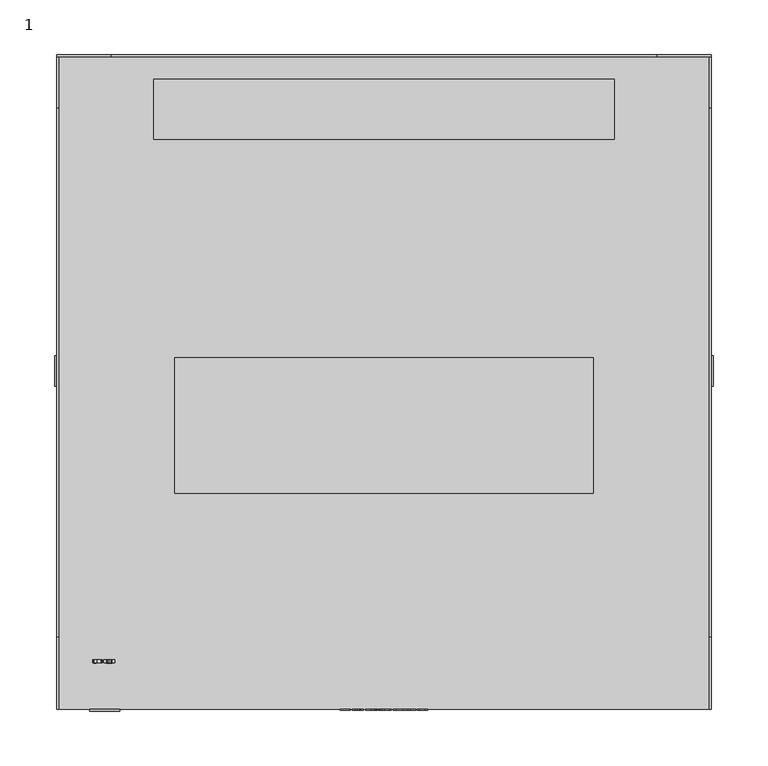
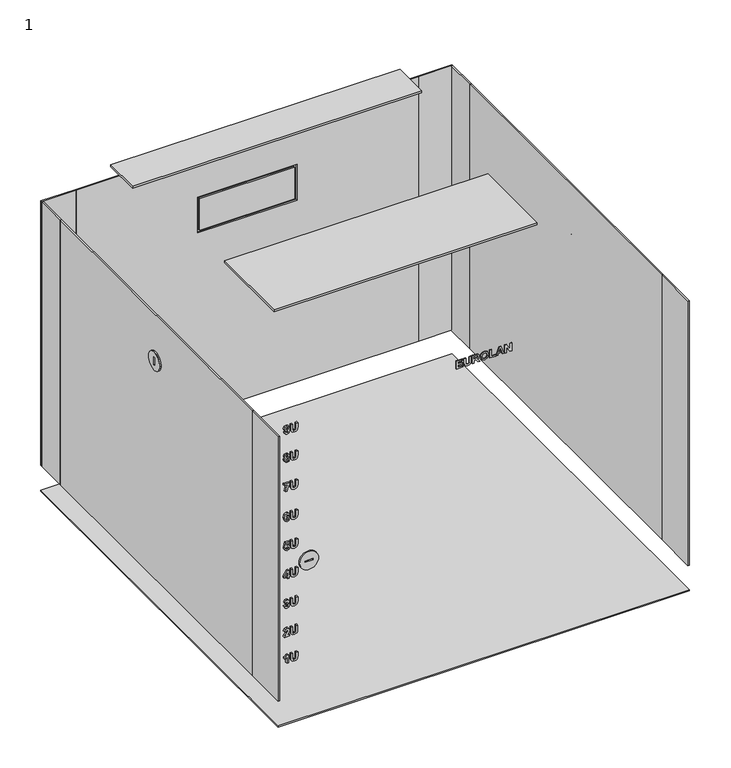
"""IFC4 building model written with IfcOpenShell, lengths in millimetres: proxy geometry, 1 : 9U 600мм металлическая дверь."""

from ifc_helpers import new_model, si_unit, point, frame, frame_2d, origin, origin_with_axes, place, context, project, spatial, polyline, circle_curve, trimmed, segment, composite_curve, outline, extrude, source, transform, mapped, element, save


def proxy_1_869947a7(model_context):
    return source(origin(), model_context, "Body", "SweptSolid", [
        extrude(outline(polyline([(462.0, -40.3245382), (462.0, -30.9964522), (464.1376864, -30.9964522), (464.1376864, -37.9925167), (467.2470483, -37.9925167), (467.2470483, -31.5794576), (469.3847347, -31.5794576), (469.3847347, -37.9925167), (472.1054264, -37.9925167), (472.1054264, -31.1907874), (474.2431128, -31.1907874), (474.2431128, -40.3245382), (462.0, -40.3245382)])), frame((0.0, -301.0, 0.0), z_axis=(0.0, 1.0, 0.0), x_axis=(0.0, 0.0, 1.0)), (0.0, 0.0, 1.0), 1.0),
        extrude(outline(polyline([(474.2431128, -29.053101), (467.7207402, -29.053101), (464.6174512, -28.8071456), (463.2601418, -28.1026808), (462.2095176, -26.6482039), (461.8056649, -23.9487675), (462.1761162, -21.5575346), (463.173602, -20.0954664), (464.7085458, -19.3454543), (467.8209443, -19.1420097), (474.2431128, -19.1420097), (474.2431128, -21.4740312), (467.4960402, -21.4740312), (465.4236383, -21.5924541), (464.3714958, -22.2923642), (463.9433512, -24.0216432), (464.3973059, -25.7979877), (465.5982363, -26.6208755), (467.6387551, -26.7210795), (474.2431128, -26.7210795), (474.2431128, -29.053101)])), frame((0.0, -301.0, 0.0), z_axis=(0.0, 1.0, 0.0), x_axis=(0.0, 0.0, 1.0)), (0.0, 0.0, 1.0), 1.0),
        extrude(outline(polyline([(462.0, -16.8099882), (462.0, -14.4779667), (467.0527132, -13.9435451), (466.9251808, -12.6120459), (466.4560437, -11.8164865), (464.7966039, -10.4242575), (462.0, -8.6509495), (462.0, -5.9272213), (464.3745323, -7.424209), (466.3512849, -8.7238252), (467.3715443, -9.9475291), (468.5071902, -7.6625732), (470.7936644, -6.8988969), (472.7339791, -7.4272455), (473.9121358, -8.8361752), (474.2431128, -11.6601074), (474.2431128, -16.8099882), (462.0, -16.8099882)]), holes=[polyline([(469.1903996, -14.4779667), (472.1054264, -14.4779667), (472.1054264, -12.4495939), (472.0659521, -10.5548264), (471.6150339, -9.5770778), (470.6782779, -9.2309184), (469.817434, -9.4935744), (469.3315962, -10.2223312), (469.1903996, -12.5558709), (469.1903996, -14.4779667)])]), frame((0.0, -301.0, 0.0), z_axis=(0.0, 1.0, 0.0), x_axis=(0.0, 0.0, 1.0)), (0.0, 0.0, 1.0), 1.0),
        extrude(outline(polyline([(468.0456442, -4.9555457), (463.4681411, -3.3735363), (461.8056649, 0.8896905), (463.4757323, 5.1225524), (468.106374, 6.7045618), (472.7628257, 5.1104065), (474.4374479, 0.8593256), (473.9546466, -1.7338337), (472.8539203, -3.2869964), (471.1792981, -4.4059416), (468.0456442, -4.9555457)]), holes=[polyline([(468.1306659, -2.6235242), (471.2612832, -1.6579215), (472.2997616, 0.886654), (471.2734292, 3.4190836), (468.1640672, 4.3725403), (464.9985302, 3.3932735), (463.9433512, 0.886654), (465.0061214, -1.6321114), (468.1306659, -2.6235242)])]), frame((0.0, -301.0, 0.0), z_axis=(0.0, 1.0, 0.0), x_axis=(0.0, 0.0, 1.0)), (0.0, 0.0, 1.0), 1.0),
        extrude(outline(polyline([(462.0, 8.647913), (462.0, 17.1986585), (464.1376864, 17.1986585), (464.1376864, 10.9799345), (474.2431128, 10.9799345), (474.2431128, 8.647913), (462.0, 8.647913)])), frame((0.0, -301.0, 0.0), z_axis=(0.0, 1.0, 0.0), x_axis=(0.0, 0.0, 1.0)), (0.0, 0.0, 1.0), 1.0),
        extrude(outline(polyline([(462.0, 29.2474361), (474.2431128, 24.7352175), (474.2431128, 22.2513717), (462.0, 17.7816638), (462.0, 20.2655096), (464.7206917, 21.2128934), (464.7206917, 25.837462), (462.0, 26.7969917), (462.0, 29.2474361)]), holes=[polyline([(466.8583781, 25.0904864), (466.8583781, 21.959869), (471.3280859, 23.51455), (466.8583781, 25.0904864)])]), frame((0.0, -301.0, 0.0), z_axis=(0.0, 1.0, 0.0), x_axis=(0.0, 0.0, 1.0)), (0.0, 0.0, 1.0), 1.0),
        extrude(outline(polyline([(462.0, 30.4134469), (462.0, 32.7454684), (470.1195644, 32.7454684), (462.0, 37.8042546), (462.0, 40.3245382), (474.2431128, 40.3245382), (474.2431128, 37.9925167), (466.002089, 37.9925167), (474.2431128, 32.8578184), (474.2431128, 30.4134469), (462.0, 30.4134469)])), frame((0.0, -301.0, 0.0), z_axis=(0.0, 1.0, 0.0), x_axis=(0.0, 0.0, 1.0)), (0.0, 0.0, 1.0), 1.0),
        extrude(outline(composite_curve([segment(trimmed(circle_curve(frame_2d((9.997621, 377.4611412)), 14.0), [point((-4.002379, 377.4611412))], [point((23.997621, 377.4611412))], False, "CARTESIAN"), True, "CONTINUOUS"), segment(trimmed(circle_curve(frame_2d((9.997621, 377.4611412)), 14.0), [point((23.997621, 377.4611412))], [point((-4.002379, 377.4611412))], False, "CARTESIAN"), True, "CONTINUOUS")], self_intersect=False), holes=[polyline([(11.0, 383.5), (9.0, 383.5), (9.0, 371.5), (11.0, 371.5), (11.0, 383.5)])]), frame((-302.0, 0.0, 0.0), z_axis=(1.0, 0.0, 0.0), x_axis=(0.0, 1.0, 0.0)), (0.0, 0.0, 1.0), 2.0),
        extrude(outline(composite_curve([segment(trimmed(circle_curve(frame_2d((9.997621, 377.4611412)), 14.0), [point((-4.002379, 377.4611412))], [point((23.997621, 377.4611412))], False, "CARTESIAN"), True, "CONTINUOUS"), segment(trimmed(circle_curve(frame_2d((9.997621, 377.4611412)), 14.0), [point((23.997621, 377.4611412))], [point((-4.002379, 377.4611412))], False, "CARTESIAN"), True, "CONTINUOUS")], self_intersect=False), holes=[polyline([(11.0, 383.5), (9.0, 383.5), (9.0, 371.5), (11.0, 371.5), (11.0, 383.5)])]), frame((300.0, 0.0, 0.0), z_axis=(1.0, 0.0, 0.0), x_axis=(0.0, 1.0, 0.0)), (0.0, 0.0, 1.0), 2.0),
        extrude(outline(composite_curve([segment(trimmed(circle_curve(frame_2d((243.0, -256.0)), 13.7647373), [point((243.0, -242.2352627))], [point((243.0, -269.7647373))], False, "CARTESIAN"), True, "CONTINUOUS"), segment(trimmed(circle_curve(frame_2d((243.0, -256.0)), 13.7647373), [point((243.0, -269.7647373))], [point((243.0, -242.2352627))], False, "CARTESIAN"), True, "CONTINUOUS")], self_intersect=False), holes=[polyline([(244.0, -250.0), (242.0, -250.0), (242.0, -262.0), (244.0, -262.0), (244.0, -250.0)])]), frame((0.0, -302.0, 0.0), z_axis=(0.0, 1.0, 0.0), x_axis=(0.0, 0.0, 1.0)), (0.0, 0.0, 1.0), 2.0),
        extrude(outline(polyline([(300.0, 300.0), (300.0, -300.0), (-300.0, -300.0), (-300.0, 300.0), (300.0, 300.0)])), origin_with_axes(), (0.0, 0.0, 1.0), 2.0),
        extrude(outline(polyline([(211.0, 277.5), (211.0, 222.5), (-211.0, 222.5), (-211.0, 277.5), (211.0, 277.5)])), frame((0.0, 0.0, 482.9795778), z_axis=(0.0, 0.0, 1.0), x_axis=(1.0, 0.0, 0.0)), (0.0, 0.0, 1.0), 3.0204222),
        extrude(outline(polyline([(192.0, 22.0), (192.0, -102.0), (-192.0, -102.0), (-192.0, 22.0), (192.0, 22.0)])), frame((0.0, 0.0, 482.9795778), z_axis=(0.0, 0.0, 1.0), x_axis=(1.0, 0.0, 0.0)), (0.0, 0.0, 1.0), 3.0204222),
        extrude(outline(polyline([(-69.5, 300.0), (69.5, 300.0), (69.5, 298.0), (-69.5, 298.0), (-69.5, 300.0)])), frame((0.0, 0.0, 323.0), z_axis=(0.0, 0.0, 1.0), x_axis=(1.0, 0.0, 0.0)), (0.0, 0.0, 1.0), 49.0),
        extrude(outline(polyline([(448.0, -250.0), (40.0, -250.0), (40.0, 250.0), (448.0, 250.0), (448.0, -250.0)]), holes=[polyline([(375.0, -72.5), (375.0, 72.5), (320.0, 72.5), (320.0, -72.5), (375.0, -72.5)])]), frame((0.0, 298.0, 0.0), z_axis=(0.0, 1.0, 0.0), x_axis=(0.0, 0.0, 1.0)), (0.0, 0.0, 1.0), 2.0),
        extrude(outline(polyline([(-300.0, 300.0), (-250.0, 300.0), (-250.0, 298.0), (-300.0, 298.0), (-300.0, 300.0)])), frame((0.0, 0.0, 40.0), z_axis=(0.0, 0.0, 1.0), x_axis=(1.0, 0.0, 0.0)), (0.0, 0.0, 1.0), 408.0),
        extrude(outline(polyline([(250.0, 300.0), (300.0, 300.0), (300.0, 298.0), (250.0, 298.0), (250.0, 300.0)])), frame((0.0, 0.0, 40.0), z_axis=(0.0, 0.0, 1.0), x_axis=(1.0, 0.0, 0.0)), (0.0, 0.0, 1.0), 408.0),
        extrude(outline(polyline([(-298.0, 250.8155315), (-298.0, -233.7095641), (-300.0, -233.7095641), (-300.0, 250.8155315), (-298.0, 250.8155315)])), frame((0.0, 0.0, 40.0), z_axis=(0.0, 0.0, 1.0), x_axis=(1.0, 0.0, 0.0)), (0.0, 0.0, 1.0), 408.0),
        extrude(outline(polyline([(-298.0, -233.7095641), (-298.0, -300.0), (-300.0, -300.0), (-300.0, -233.7095641), (-298.0, -233.7095641)])), frame((0.0, 0.0, 40.0), z_axis=(0.0, 0.0, 1.0), x_axis=(1.0, 0.0, 0.0)), (0.0, 0.0, 1.0), 408.0),
        extrude(outline(polyline([(-298.0, 300.0), (-298.0, 250.8155315), (-300.0, 250.8155315), (-300.0, 300.0), (-298.0, 300.0)])), frame((0.0, 0.0, 40.0), z_axis=(0.0, 0.0, 1.0), x_axis=(1.0, 0.0, 0.0)), (0.0, 0.0, 1.0), 408.0),
        extrude(outline(polyline([(300.0, 250.8155315), (300.0, -233.7095641), (298.0, -233.7095641), (298.0, 250.8155315), (300.0, 250.8155315)])), frame((0.0, 0.0, 40.0), z_axis=(0.0, 0.0, 1.0), x_axis=(1.0, 0.0, 0.0)), (0.0, 0.0, 1.0), 408.0),
        extrude(outline(polyline([(300.0, 300.0), (300.0, 250.8155315), (298.0, 250.8155315), (298.0, 300.0), (300.0, 300.0)])), frame((0.0, 0.0, 40.0), z_axis=(0.0, 0.0, 1.0), x_axis=(1.0, 0.0, 0.0)), (0.0, 0.0, 1.0), 408.0),
        extrude(outline(polyline([(300.0, -233.7095641), (300.0, -300.0), (298.0, -300.0), (298.0, -233.7095641), (300.0, -233.7095641)])), frame((0.0, 0.0, 40.0), z_axis=(0.0, 0.0, 1.0), x_axis=(1.0, 0.0, 0.0)), (0.0, 0.0, 1.0), 408.0),
        extrude(outline(polyline([(416.2414631, -266.2387962), (413.8062011, -265.1547706), (412.9924228, -262.9381356), (414.4696734, -259.8469925), (419.2870589, -258.6597264), (423.9981674, -259.7953723), (425.4298707, -262.7012897), (424.3169985, -265.3809888), (421.3852709, -266.4331314), (418.550711, -265.4083172), (417.4621306, -262.971537), (418.476317, -260.8065222), (415.7753625, -261.4290019), (415.1301091, -262.6071586), (415.4641226, -263.4922944), (416.490455, -263.9067747), (416.2414631, -266.2387962)]), holes=[polyline([(421.3306142, -260.9917479), (420.0385892, -261.4365931), (419.599817, -262.5312464), (420.0568082, -263.6517099), (421.4885115, -264.1011099), (422.8701127, -263.6881477), (423.2921843, -262.6496694), (422.7774999, -261.4927681), (421.3306142, -260.9917479)])]), frame((0.0, -257.6777479, 0.0), z_axis=(0.0, 1.0, 0.0), x_axis=(0.0, 0.0, 1.0)), (0.0, 0.0, 1.0), 3.0),
        extrude(outline(polyline([(425.4298707, -256.7163752), (418.9074981, -256.7163752), (415.8042091, -256.4704198), (414.4468997, -255.7659549), (413.3962754, -254.311478), (412.9924228, -251.6120417), (413.3628741, -249.2208087), (414.3603599, -247.7587405), (415.8953037, -247.0087284), (419.0077021, -246.8052838), (425.4298707, -246.8052838), (425.4298707, -249.1373053), (418.6827981, -249.1373053), (416.6103962, -249.2557283), (415.5582537, -249.9556384), (415.1301091, -251.6849173), (415.5840638, -253.4612618), (416.7849942, -254.2841496), (418.825513, -254.3843537), (425.4298707, -254.3843537), (425.4298707, -256.7163752)])), frame((0.0, -257.6777479, 0.0), z_axis=(0.0, 1.0, 0.0), x_axis=(0.0, 0.0, 1.0)), (0.0, 0.0, 1.0), 3.0),
        extrude(outline(polyline([(376.4962498, -264.3865396), (375.2254803, -265.9397023), (373.4172527, -266.4331314), (370.6024299, -265.1669166), (369.7339948, -262.4826627), (370.784619, -259.7042777), (373.5174567, -258.6597264), (375.3120201, -259.1865568), (376.4962498, -260.7245371), (377.508918, -259.3444541), (379.0226064, -258.8540615), (381.280234, -259.8227007), (382.1714427, -262.5464289), (381.280234, -265.2777483), (379.0226064, -266.2387962), (377.5499105, -265.7985057), (376.4962498, -264.3865396)]), holes=[polyline([(378.8798915, -263.9067747), (380.000355, -263.5332869), (380.4224266, -262.5312464), (380.0033915, -261.5550161), (378.889001, -261.186083), (377.7320997, -261.5595708), (377.3130646, -262.5555383), (377.727545, -263.5378417), (378.8798915, -263.9067747)]), polyline([(373.6146243, -264.1011099), (374.94916, -263.7169943), (375.5640485, -262.5494654), (375.0220357, -261.4320384), (373.5872959, -260.9917479), (372.0250237, -261.4244472), (371.4830109, -262.5191005), (372.0462791, -263.6486734), (373.6146243, -264.1011099)])]), frame((0.0, -257.6777479, 0.0), z_axis=(0.0, 1.0, 0.0), x_axis=(0.0, 0.0, 1.0)), (0.0, 0.0, 1.0), 3.0),
        extrude(outline(polyline([(382.1714427, -256.7163752), (375.6490701, -256.7163752), (372.5457811, -256.4704198), (371.1884717, -255.7659549), (370.1378475, -254.311478), (369.7339948, -251.6120417), (370.1044461, -249.2208087), (371.1019319, -247.7587405), (372.6368757, -247.0087284), (375.7492742, -246.8052838), (382.1714427, -246.8052838), (382.1714427, -249.1373053), (375.4243701, -249.1373053), (373.3519682, -249.2557283), (372.2998257, -249.9556384), (371.8716811, -251.6849173), (372.3256358, -253.4612618), (373.5265662, -254.2841496), (375.567085, -254.3843537), (382.1714427, -254.3843537), (382.1714427, -256.7163752)])), frame((0.0, -257.6777479, 0.0), z_axis=(0.0, 1.0, 0.0), x_axis=(0.0, 0.0, 1.0)), (0.0, 0.0, 1.0), 3.0),
        extrude(outline(polyline([(334.6450861, -266.4331314), (334.6450861, -261.3257614), (330.0129262, -264.008497), (324.9283299, -265.0727855), (324.9283299, -262.740764), (328.5812229, -262.2154519), (332.440597, -260.6622891), (335.2280915, -258.6597264), (336.9771076, -258.6597264), (336.9771076, -266.4331314), (334.6450861, -266.4331314)])), frame((0.0, -257.6777479, 0.0), z_axis=(0.0, 1.0, 0.0), x_axis=(0.0, 0.0, 1.0)), (0.0, 0.0, 1.0), 3.0),
        extrude(outline(polyline([(337.1714427, -256.7163752), (330.6490701, -256.7163752), (327.5457811, -256.4704198), (326.1884717, -255.7659549), (325.1378475, -254.311478), (324.7339948, -251.6120417), (325.1044461, -249.2208087), (326.1019319, -247.7587405), (327.6368757, -247.0087284), (330.7492742, -246.8052838), (337.1714427, -246.8052838), (337.1714427, -249.1373053), (330.4243701, -249.1373053), (328.3519682, -249.2557283), (327.2998257, -249.9556384), (326.8716811, -251.6849173), (327.3256358, -253.4612618), (328.5265662, -254.2841496), (330.567085, -254.3843537), (337.1714427, -254.3843537), (337.1714427, -256.7163752)])), frame((0.0, -257.6777479, 0.0), z_axis=(0.0, 1.0, 0.0), x_axis=(0.0, 0.0, 1.0)), (0.0, 0.0, 1.0), 3.0),
        extrude(outline(polyline([(287.6111434, -258.8540615), (290.0281866, -259.9654155), (290.8601838, -262.1668681), (289.381415, -265.2473834), (284.5534017, -266.4331314), (279.8559574, -265.2974855), (278.4227359, -262.4006775), (279.5325716, -259.7073142), (282.4764451, -258.6597264), (285.2973409, -259.6845405), (286.390476, -262.1486492), (285.3671801, -264.2802626), (288.0772441, -263.6638558), (288.7224974, -262.4674802), (288.3900022, -261.5990451), (287.3621516, -261.186083), (287.6111434, -258.8540615)]), holes=[polyline([(282.5280654, -264.1011099), (283.8155356, -263.6532281), (284.2527896, -262.5585748), (283.7957984, -261.4396296), (282.3549856, -260.9917479), (280.9794573, -261.4077465), (280.5604222, -262.4462248), (281.0720702, -263.5970531), (282.5280654, -264.1011099)])]), frame((0.0, -257.6777479, 0.0), z_axis=(0.0, 1.0, 0.0), x_axis=(0.0, 0.0, 1.0)), (0.0, 0.0, 1.0), 3.0),
        extrude(outline(polyline([(290.8601838, -256.7163752), (284.3378112, -256.7163752), (281.2345222, -256.4704198), (279.8772128, -255.7659549), (278.8265886, -254.311478), (278.4227359, -251.6120417), (278.7931872, -249.2208087), (279.790673, -247.7587405), (281.3256168, -247.0087284), (284.4380153, -246.8052838), (290.8601838, -246.8052838), (290.8601838, -249.1373053), (284.1131112, -249.1373053), (282.0407093, -249.2557283), (280.9885668, -249.9556384), (280.5604222, -251.6849173), (281.0143769, -253.4612618), (282.2153073, -254.2841496), (284.2558261, -254.3843537), (290.8601838, -254.3843537), (290.8601838, -256.7163752)])), frame((0.0, -257.6777479, 0.0), z_axis=(0.0, 1.0, 0.0), x_axis=(0.0, 0.0, 1.0)), (0.0, 0.0, 1.0), 3.0),
        extrude(outline(polyline([(237.3503584, -266.4331314), (234.6964693, -265.1957632), (233.7096113, -262.522137), (235.2825112, -259.312571), (237.9029989, -258.4653913), (240.7679237, -259.4826142), (241.8716865, -261.960387), (241.3949581, -263.4634477), (243.6207026, -262.9927924), (243.6207026, -259.0483966), (245.9527241, -259.0483966), (245.9527241, -264.8784504), (239.0629366, -266.2387962), (238.7623245, -264.2164963), (239.7340001, -262.509991), (239.2633447, -261.2726229), (237.8513786, -260.7974128), (236.3467996, -261.3090607), (235.8472976, -262.5585748), (236.317953, -263.7002937), (237.5963138, -264.295445), (237.3503584, -266.4331314)])), frame((0.0, -257.6777479, 0.0), z_axis=(0.0, 1.0, 0.0), x_axis=(0.0, 0.0, 1.0)), (0.0, 0.0, 1.0), 3.0),
        extrude(outline(polyline([(246.1470592, -256.7163752), (239.6246866, -256.7163752), (236.5213976, -256.4704198), (235.1640882, -255.7659549), (234.113464, -254.311478), (233.7096113, -251.6120417), (234.0800626, -249.2208087), (235.0775484, -247.7587405), (236.6124922, -247.0087284), (239.7248907, -246.8052838), (246.1470592, -246.8052838), (246.1470592, -249.1373053), (239.3999866, -249.1373053), (237.3275847, -249.2557283), (236.2754422, -249.9556384), (235.8472976, -251.6849173), (236.3012523, -253.4612618), (237.5021827, -254.2841496), (239.5427015, -254.3843537), (246.1470592, -254.3843537), (246.1470592, -256.7163752)])), frame((0.0, -257.6777479, 0.0), z_axis=(0.0, 1.0, 0.0), x_axis=(0.0, 0.0, 1.0)), (0.0, 0.0, 1.0), 3.0),
        extrude(outline(polyline([(189.9283299, -262.1577586), (189.9283299, -259.8257371), (192.4546865, -259.8257371), (192.4546865, -258.2710562), (194.3980377, -258.2710562), (194.3980377, -259.8257371), (201.9771076, -259.8257371), (201.9771076, -261.848037), (194.3889283, -266.8218016), (192.4546865, -266.8218016), (192.4546865, -262.1577586), (189.9283299, -262.1577586)]), holes=[polyline([(194.3980377, -262.1577586), (194.3980377, -264.7630639), (198.3758348, -262.1577586), (194.3980377, -262.1577586)])]), frame((0.0, -257.6777479, 0.0), z_axis=(0.0, 1.0, 0.0), x_axis=(0.0, 0.0, 1.0)), (0.0, 0.0, 1.0), 3.0),
        extrude(outline(polyline([(202.1714427, -256.7163752), (195.6490701, -256.7163752), (192.5457811, -256.4704198), (191.1884717, -255.7659549), (190.1378475, -254.311478), (189.7339948, -251.6120417), (190.1044461, -249.2208087), (191.1019319, -247.7587405), (192.6368757, -247.0087284), (195.7492742, -246.8052838), (202.1714427, -246.8052838), (202.1714427, -249.1373053), (195.4243701, -249.1373053), (193.3519682, -249.2557283), (192.2998257, -249.9556384), (191.8716811, -251.6849173), (192.3256358, -253.4612618), (193.5265662, -254.2841496), (195.567085, -254.3843537), (202.1714427, -254.3843537), (202.1714427, -256.7163752)])), frame((0.0, -257.6777479, 0.0), z_axis=(0.0, 1.0, 0.0), x_axis=(0.0, 0.0, 1.0)), (0.0, 0.0, 1.0), 3.0),
        extrude(outline(polyline([(148.35045, -266.4331314), (145.734517, -265.2200551), (144.7339948, -262.5859032), (145.859013, -259.7847446), (148.5781864, -258.6597264), (150.4562532, -259.294352), (151.4567755, -260.9887114), (154.0286794, -259.2427318), (156.0691982, -260.0565101), (157.1714427, -262.6739613), (156.773663, -264.3971673), (155.6820462, -265.5965794), (153.8282713, -266.2387962), (153.4790753, -263.9067747), (154.6374949, -263.4892579), (155.0337563, -262.6587789), (154.6921516, -261.8708107), (153.776651, -261.5747533), (152.6956619, -261.9710147), (152.3130646, -263.1203248), (150.3909688, -263.3237694), (150.5640485, -262.397641), (150.0812472, -261.4001553), (148.7725216, -260.9917479), (147.3863656, -261.4381114), (146.8716811, -262.5403559), (147.3210811, -263.5757977), (148.6206973, -264.1011099), (148.35045, -266.4331314)])), frame((0.0, -257.6777479, 0.0), z_axis=(0.0, 1.0, 0.0), x_axis=(0.0, 0.0, 1.0)), (0.0, 0.0, 1.0), 3.0),
        extrude(outline(polyline([(157.1714427, -256.7163752), (150.6490701, -256.7163752), (147.5457811, -256.4704198), (146.1884717, -255.7659549), (145.1378475, -254.311478), (144.7339948, -251.6120417), (145.1044461, -249.2208087), (146.1019319, -247.7587405), (147.6368757, -247.0087284), (150.7492742, -246.8052838), (157.1714427, -246.8052838), (157.1714427, -249.1373053), (150.4243701, -249.1373053), (148.3519682, -249.2557283), (147.2998257, -249.9556384), (146.8716811, -251.6849173), (147.3256358, -253.4612618), (148.5265662, -254.2841496), (150.567085, -254.3843537), (157.1714427, -254.3843537), (157.1714427, -256.7163752)])), frame((0.0, -257.6777479, 0.0), z_axis=(0.0, 1.0, 0.0), x_axis=(0.0, 0.0, 1.0)), (0.0, 0.0, 1.0), 3.0),
        extrude(outline(polyline([(103.3014708, -258.8246798), (103.9391329, -262.7326376), (105.2660774, -261.4011384), (106.7964665, -259.9512162), (108.3298921, -259.094927), (109.8724272, -258.8246798), (112.2545507, -259.8115378), (113.2125621, -262.5261566), (112.3577912, -265.1527172), (109.5384137, -266.4037496), (109.3258596, -264.0717281), (110.6695048, -263.6223281), (111.0748758, -262.5777768), (110.6634319, -261.5347438), (109.4837569, -261.1567012), (108.0809003, -261.6061012), (106.1254031, -263.4097741), (103.2574418, -265.8541456), (100.9694493, -266.5980847), (100.9694493, -258.8246798), (103.3014708, -258.8246798)])), frame((0.0, -257.6777479, 0.0), z_axis=(0.0, 1.0, 0.0), x_axis=(0.0, 0.0, 1.0)), (0.0, 0.0, 1.0), 3.0),
        extrude(outline(polyline([(113.2125621, -256.8813285), (106.6901895, -256.8813285), (103.5869005, -256.6353731), (102.2295911, -255.9309083), (101.1789669, -254.4764314), (100.7751142, -251.776995), (101.1455655, -249.3857621), (102.1430513, -247.9236939), (103.6779951, -247.1736818), (106.7903936, -246.9702372), (113.2125621, -246.9702372), (113.2125621, -249.3022587), (106.4654895, -249.3022587), (104.3930876, -249.4206817), (103.3409451, -250.1205917), (102.9128006, -251.8498707), (103.3667553, -253.6262152), (104.5676856, -254.449103), (106.6082044, -254.549307), (113.2125621, -254.549307), (113.2125621, -256.8813285)])), frame((0.0, -257.6777479, 0.0), z_axis=(0.0, 1.0, 0.0), x_axis=(0.0, 0.0, 1.0)), (0.0, 0.0, 1.0), 3.0),
        extrude(outline(polyline([(59.9283299, -260.6030776), (72.1714427, -260.6030776), (72.1714427, -262.4614073), (70.2053178, -263.9037383), (69.0620807, -265.850126), (66.7300592, -265.850126), (68.6794834, -262.9350991), (59.9283299, -262.9350991), (59.9283299, -260.6030776)])), frame((0.0, -257.6777479, 0.0), z_axis=(0.0, 1.0, 0.0), x_axis=(0.0, 0.0, 1.0)), (0.0, 0.0, 1.0), 3.0),
        extrude(outline(polyline([(72.1714427, -256.7163752), (65.6490701, -256.7163752), (62.5457811, -256.4704198), (61.1884717, -255.7659549), (60.1378475, -254.311478), (59.7339948, -251.6120417), (60.1044461, -249.2208087), (61.1019319, -247.7587405), (62.6368757, -247.0087284), (65.7492742, -246.8052838), (72.1714427, -246.8052838), (72.1714427, -249.1373053), (65.4243701, -249.1373053), (63.3519682, -249.2557283), (62.2998257, -249.9556384), (61.8716811, -251.6849173), (62.3256358, -253.4612618), (63.5265662, -254.2841496), (65.567085, -254.3843537), (72.1714427, -254.3843537), (72.1714427, -256.7163752)])), frame((0.0, -257.6777479, 0.0), z_axis=(0.0, 1.0, 0.0), x_axis=(0.0, 0.0, 1.0)), (0.0, 0.0, 1.0), 3.0),
    ])


if __name__ == "__main__":
    model = new_model("IFC4")
    model_context = context("Model", 3, world=origin())
    ifc_project = project(units=[si_unit("LENGTHUNIT", "METRE", prefix="MILLI")], contexts=[model_context])
    site = spatial("IfcSite", under=ifc_project)
    building = spatial("IfcBuilding", under=site)
    placement = place(None, origin())
    proxy_1_shape = proxy_1_869947a7(model_context)
    element("IfcBuildingElementProxy", 1, Name="1 : 9U 600мм металлическая дверь", ObjectType="1 : 9U 600мм металлическая дверь", at=placement, inside=building, context=model_context, shape_type="MappedRepresentation", body=[
        mapped(proxy_1_shape, transform((0.0, 0.0, 0.0), x_axis=(1.0, 0.0, 0.0), y_axis=(0.0, 1.0, 0.0), z_axis=(0.0, 0.0, 1.0))),
    ])
    save(model, "model.ifc")
